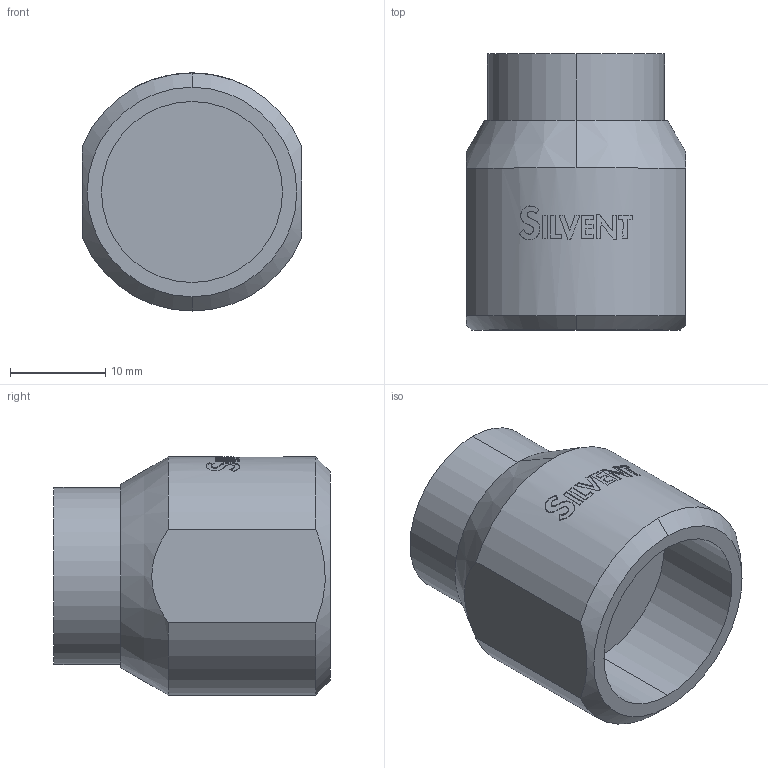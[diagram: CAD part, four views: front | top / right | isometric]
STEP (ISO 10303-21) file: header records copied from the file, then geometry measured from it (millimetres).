
FILE_DESCRIPTION (( 'STEP AP203' ), '1' );
FILE_NAME ('Silvent 701.STEP', '2003-09-23T11:38:02', ( 'Ulf Persson' ), ( '' ), 'SwSTEP 2.0', 'SolidWorks 2003099', '' );
FILE_SCHEMA (( 'CONFIG_CONTROL_DESIGN' ));
Length unit declared in the file: millimetre
Products named in the file (1): Silvent 701
Bounding box: 23 x 29 x 25 mm (x, y, z)
Volume: 9037.8 mm3; surface area: 3440.9 mm2
Topology: 1 solids, 1 shells, 149 faces, 412 edges, 274 vertices
Faces by surface type: cylinder 91, plane 54, cone 4
Entity records: 5236 total; most frequent: CARTESIAN_POINT 1759, ORIENTED_EDGE 824, DIRECTION 552, EDGE_CURVE 412, VERTEX_POINT 274, AXIS2_PLACEMENT_3D 196, LINE 160, VECTOR 160
